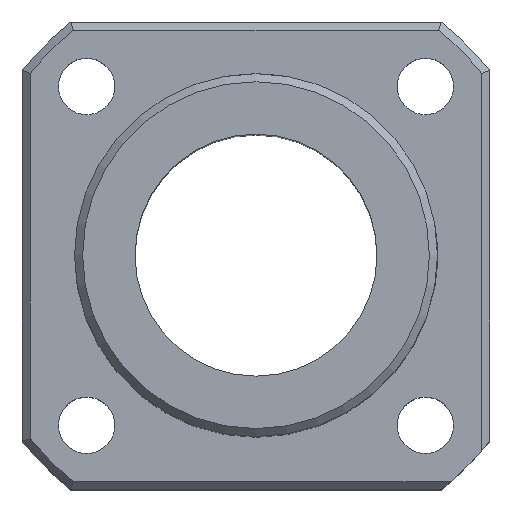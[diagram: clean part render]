
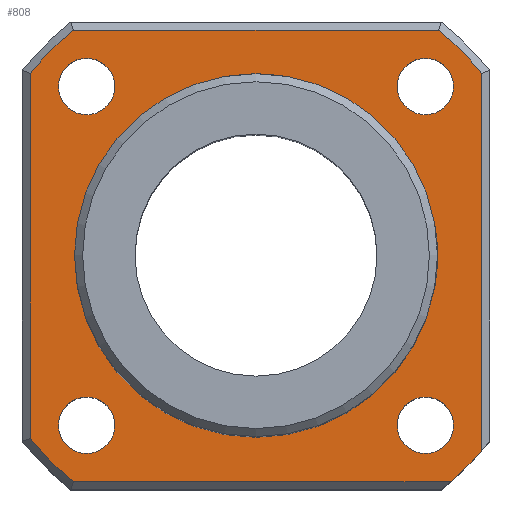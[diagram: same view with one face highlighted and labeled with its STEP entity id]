
A CAD part, top view. The second image highlights one B-rep face of the part: STEP entity #808.
In plain terms, the highlighted planar face has unit normal (0, 0, 1).
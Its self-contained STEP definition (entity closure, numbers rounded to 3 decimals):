
#531=CARTESIAN_POINT('',(24.187,-28.,18.0));
#532=VERTEX_POINT('',#531);
#540=CARTESIAN_POINT('',(-22.627,-28.,18.0));
#541=VERTEX_POINT('',#540);
#542=CARTESIAN_POINT('',(24.187,-28.,18.0));
#543=DIRECTION('',(-1.0,0.0,0.0));
#544=VECTOR('',#543,46.814);
#545=LINE('',#542,#544);
#546=EDGE_CURVE('',#532,#541,#545,.T.);
#571=CARTESIAN_POINT('',(-28.,-22.627,18.0));
#572=VERTEX_POINT('',#571);
#573=CARTESIAN_POINT('',(0.0,0.0,18.0));
#574=DIRECTION('',(0.0,0.0,-1.0));
#575=DIRECTION('',(-1.0,0.0,0.0));
#576=AXIS2_PLACEMENT_3D('',#573,#574,#575);
#577=CIRCLE('',#576,36.);
#578=EDGE_CURVE('',#541,#572,#577,.T.);
#603=CARTESIAN_POINT('',(-28.,22.627,18.0));
#604=VERTEX_POINT('',#603);
#605=CARTESIAN_POINT('',(-28.,-22.627,18.0));
#606=DIRECTION('',(0.0,1.0,0.0));
#607=VECTOR('',#606,45.255);
#608=LINE('',#605,#607);
#609=EDGE_CURVE('',#572,#604,#608,.T.);
#628=CARTESIAN_POINT('',(-22.627,28.,18.0));
#629=VERTEX_POINT('',#628);
#630=CARTESIAN_POINT('',(0.0,0.0,18.0));
#631=DIRECTION('',(0.0,0.0,-1.0));
#632=DIRECTION('',(-1.0,0.0,0.0));
#633=AXIS2_PLACEMENT_3D('',#630,#631,#632);
#634=CIRCLE('',#633,36.);
#635=EDGE_CURVE('',#604,#629,#634,.T.);
#654=CARTESIAN_POINT('',(22.627,28.,18.0));
#655=VERTEX_POINT('',#654);
#656=CARTESIAN_POINT('',(-22.627,28.,18.0));
#657=DIRECTION('',(1.0,0.0,0.0));
#658=VECTOR('',#657,45.255);
#659=LINE('',#656,#658);
#660=EDGE_CURVE('',#629,#655,#659,.T.);
#679=CARTESIAN_POINT('',(28.,22.627,18.0));
#680=VERTEX_POINT('',#679);
#681=CARTESIAN_POINT('',(0.0,0.0,18.0));
#682=DIRECTION('',(0.0,0.0,-1.0));
#683=DIRECTION('',(1.0,0.0,0.0));
#684=AXIS2_PLACEMENT_3D('',#681,#682,#683);
#685=CIRCLE('',#684,36.);
#686=EDGE_CURVE('',#655,#680,#685,.T.);
#705=CARTESIAN_POINT('',(28.,-24.187,18.0));
#706=VERTEX_POINT('',#705);
#723=CARTESIAN_POINT('',(28.,22.627,18.0));
#724=DIRECTION('',(0.0,-1.0,0.0));
#725=VECTOR('',#724,46.814);
#726=LINE('',#723,#725);
#727=EDGE_CURVE('',#680,#706,#726,.T.);
#732=CARTESIAN_POINT('',(0.,0.,18.0));
#733=DIRECTION('',(0.0,0.0,1.0));
#734=DIRECTION('',(1.0,0.0,0.0));
#735=AXIS2_PLACEMENT_3D('',#732,#733,#734);
#736=PLANE('',#735);
#737=ORIENTED_EDGE('',*,*,#727,.F.);
#738=ORIENTED_EDGE('',*,*,#686,.F.);
#739=ORIENTED_EDGE('',*,*,#660,.F.);
#740=ORIENTED_EDGE('',*,*,#635,.F.);
#741=ORIENTED_EDGE('',*,*,#609,.F.);
#742=ORIENTED_EDGE('',*,*,#578,.F.);
#743=ORIENTED_EDGE('',*,*,#546,.F.);
#744=CARTESIAN_POINT('',(0.0,0.0,18.0));
#745=DIRECTION('',(0.0,0.0,-1.0));
#746=DIRECTION('',(1.0,0.0,0.0));
#747=AXIS2_PLACEMENT_3D('',#744,#745,#746);
#748=CIRCLE('',#747,37.0);
#749=EDGE_CURVE('',#706,#532,#748,.T.);
#750=ORIENTED_EDGE('',*,*,#749,.F.);
#751=EDGE_LOOP('',(#737,#738,#739,#740,#741,#742,#743,#750));
#752=FACE_OUTER_BOUND('',#751,.T.);
#753=CARTESIAN_POINT('',(22.5,0.,18.0));
#754=VERTEX_POINT('',#753);
#755=CARTESIAN_POINT('',(0.0,0.0,18.0));
#756=DIRECTION('',(0.0,0.0,-1.0));
#757=DIRECTION('',(-1.0,0.0,0.0));
#758=AXIS2_PLACEMENT_3D('',#755,#756,#757);
#759=CIRCLE('',#758,22.5);
#760=EDGE_CURVE('',#754,#754,#759,.T.);
#761=ORIENTED_EDGE('',*,*,#760,.T.);
#762=EDGE_LOOP('',(#761));
#763=FACE_BOUND('',#762,.T.);
#764=CARTESIAN_POINT('',(-24.5,21.0,18.));
#765=VERTEX_POINT('',#764);
#766=CARTESIAN_POINT('',(-21.0,21.0,18.));
#767=DIRECTION('',(0.0,0.0,-1.0));
#768=DIRECTION('',(1.0,0.0,0.0));
#769=AXIS2_PLACEMENT_3D('',#766,#767,#768);
#770=CIRCLE('',#769,3.5);
#771=EDGE_CURVE('',#765,#765,#770,.T.);
#772=ORIENTED_EDGE('',*,*,#771,.T.);
#773=EDGE_LOOP('',(#772));
#774=FACE_BOUND('',#773,.T.);
#775=CARTESIAN_POINT('',(17.5,21.0,18.));
#776=VERTEX_POINT('',#775);
#777=CARTESIAN_POINT('',(21.0,21.0,18.));
#778=DIRECTION('',(0.0,0.0,-1.0));
#779=DIRECTION('',(1.0,0.0,0.0));
#780=AXIS2_PLACEMENT_3D('',#777,#778,#779);
#781=CIRCLE('',#780,3.5);
#782=EDGE_CURVE('',#776,#776,#781,.T.);
#783=ORIENTED_EDGE('',*,*,#782,.T.);
#784=EDGE_LOOP('',(#783));
#785=FACE_BOUND('',#784,.T.);
#786=CARTESIAN_POINT('',(-24.5,-21.0,18.));
#787=VERTEX_POINT('',#786);
#788=CARTESIAN_POINT('',(-21.0,-21.0,18.));
#789=DIRECTION('',(0.0,0.0,-1.0));
#790=DIRECTION('',(1.0,0.0,0.0));
#791=AXIS2_PLACEMENT_3D('',#788,#789,#790);
#792=CIRCLE('',#791,3.5);
#793=EDGE_CURVE('',#787,#787,#792,.T.);
#794=ORIENTED_EDGE('',*,*,#793,.T.);
#795=EDGE_LOOP('',(#794));
#796=FACE_BOUND('',#795,.T.);
#797=CARTESIAN_POINT('',(17.5,-21.0,18.));
#798=VERTEX_POINT('',#797);
#799=CARTESIAN_POINT('',(21.0,-21.0,18.));
#800=DIRECTION('',(0.0,0.0,-1.0));
#801=DIRECTION('',(1.0,0.0,0.0));
#802=AXIS2_PLACEMENT_3D('',#799,#800,#801);
#803=CIRCLE('',#802,3.5);
#804=EDGE_CURVE('',#798,#798,#803,.T.);
#805=ORIENTED_EDGE('',*,*,#804,.T.);
#806=EDGE_LOOP('',(#805));
#807=FACE_BOUND('',#806,.T.);
#808=ADVANCED_FACE('',(#752,#763,#774,#785,#796,#807),#736,.T.);
